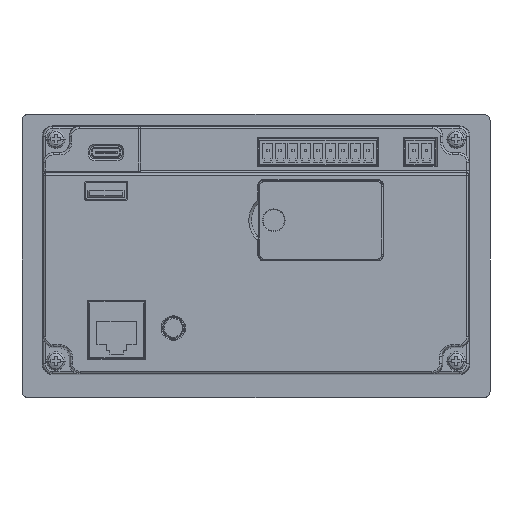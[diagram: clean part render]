
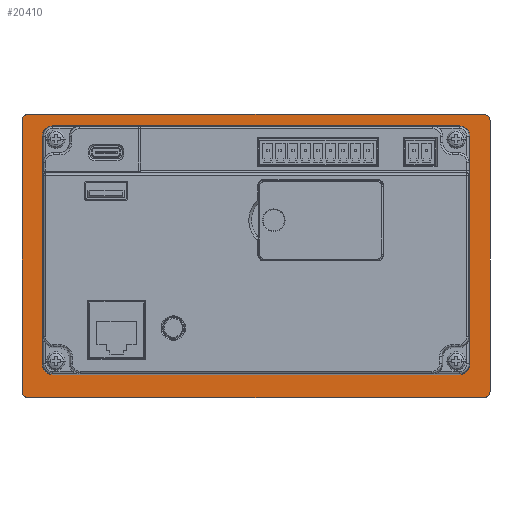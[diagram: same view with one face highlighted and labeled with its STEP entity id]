
A CAD part, top view. The second image highlights one B-rep face of the part: STEP entity #20410.
In plain terms, the highlighted planar face has unit normal (0, 0, 1).
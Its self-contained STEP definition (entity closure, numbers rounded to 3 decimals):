
#5608=CARTESIAN_POINT('',(61.815,39.465,5.));
#5609=CARTESIAN_POINT('',(62.315,39.465,5.));
#5610=CARTESIAN_POINT('',(63.098,39.248,5.));
#5611=CARTESIAN_POINT('',(63.981,38.631,5.));
#5612=CARTESIAN_POINT('',(64.598,37.748,5.));
#5613=CARTESIAN_POINT('',(64.815,36.965,5.));
#5614=CARTESIAN_POINT('',(64.815,36.465,5.));
#5624=CARTESIAN_POINT('',(-69.,-41.,5.));
#5625=DIRECTION('',(0.,0.,-1.));
#5626=DIRECTION('',(0.,-1.,0.));
#5627=AXIS2_PLACEMENT_3D('',#5624,#5625,#5626);
#5629=DIRECTION('',(0.,1.,0.));
#5630=VECTOR('',#5629,82.);
#5631=CARTESIAN_POINT('',(-71.,-41.,5.));
#5632=LINE('',#5631,#5630);
#5633=CARTESIAN_POINT('',(-69.,41.,5.));
#5634=DIRECTION('',(0.,0.,-1.));
#5635=DIRECTION('',(-1.,0.,0.));
#5636=AXIS2_PLACEMENT_3D('',#5633,#5634,#5635);
#5638=DIRECTION('',(1.,0.,0.));
#5639=VECTOR('',#5638,138.);
#5640=CARTESIAN_POINT('',(-69.,43.,5.));
#5641=LINE('',#5640,#5639);
#5642=CARTESIAN_POINT('',(69.,41.,5.));
#5643=DIRECTION('',(0.,0.,-1.));
#5644=DIRECTION('',(0.,1.,0.));
#5645=AXIS2_PLACEMENT_3D('',#5642,#5643,#5644);
#5647=DIRECTION('',(0.,-1.,0.));
#5648=VECTOR('',#5647,82.);
#5649=CARTESIAN_POINT('',(71.,41.,5.));
#5650=LINE('',#5649,#5648);
#5651=CARTESIAN_POINT('',(69.,-41.,5.));
#5652=DIRECTION('',(0.,0.,-1.));
#5653=DIRECTION('',(1.,0.,0.));
#5654=AXIS2_PLACEMENT_3D('',#5651,#5652,#5653);
#5656=DIRECTION('',(-1.,0.,0.));
#5657=VECTOR('',#5656,138.);
#5658=CARTESIAN_POINT('',(69.,-43.,5.));
#5659=LINE('',#5658,#5657);
#6132=DIRECTION('',(-1.,0.,0.));
#6133=VECTOR('',#6132,123.631);
#6134=CARTESIAN_POINT('',(61.815,39.465,5.));
#6135=LINE('',#6134,#6133);
#6144=CARTESIAN_POINT('',(-64.815,36.465,5.));
#6145=CARTESIAN_POINT('',(-64.815,36.965,5.));
#6146=CARTESIAN_POINT('',(-64.598,37.748,5.));
#6147=CARTESIAN_POINT('',(-63.981,38.631,5.));
#6148=CARTESIAN_POINT('',(-63.098,39.248,5.));
#6149=CARTESIAN_POINT('',(-62.315,39.465,5.));
#6150=CARTESIAN_POINT('',(-61.815,39.465,5.));
#6256=DIRECTION('',(0.,-1.,0.));
#6257=VECTOR('',#6256,69.431);
#6258=CARTESIAN_POINT('',(-64.815,36.465,5.));
#6259=LINE('',#6258,#6257);
#6840=DIRECTION('',(0.,1.,0.));
#6841=VECTOR('',#6840,69.431);
#6842=CARTESIAN_POINT('',(64.815,-32.965,5.));
#6843=LINE('',#6842,#6841);
#7156=CARTESIAN_POINT('',(64.815,-32.965,5.));
#7157=CARTESIAN_POINT('',(64.815,-33.465,5.));
#7158=CARTESIAN_POINT('',(64.598,-34.248,5.));
#7159=CARTESIAN_POINT('',(63.981,-35.131,5.));
#7160=CARTESIAN_POINT('',(63.098,-35.748,5.));
#7161=CARTESIAN_POINT('',(62.315,-35.965,5.));
#7162=CARTESIAN_POINT('',(61.815,-35.965,5.));
#7172=DIRECTION('',(1.,0.,0.));
#7173=VECTOR('',#7172,123.631);
#7174=CARTESIAN_POINT('',(-61.815,-35.965,5.));
#7175=LINE('',#7174,#7173);
#7184=CARTESIAN_POINT('',(-61.815,-35.965,5.));
#7185=CARTESIAN_POINT('',(-62.315,-35.965,5.));
#7186=CARTESIAN_POINT('',(-63.098,-35.748,5.));
#7187=CARTESIAN_POINT('',(-63.981,-35.131,5.));
#7188=CARTESIAN_POINT('',(-64.598,-34.248,5.));
#7189=CARTESIAN_POINT('',(-64.815,-33.465,5.));
#7190=CARTESIAN_POINT('',(-64.815,-32.965,5.));
#10632=CARTESIAN_POINT('',(-69.,-43.,5.));
#10633=CARTESIAN_POINT('',(-71.,-41.,5.));
#10634=VERTEX_POINT('',#10632);
#10635=VERTEX_POINT('',#10633);
#10636=CARTESIAN_POINT('',(-71.,41.,5.));
#10637=VERTEX_POINT('',#10636);
#10638=CARTESIAN_POINT('',(-69.,43.,5.));
#10639=VERTEX_POINT('',#10638);
#10640=CARTESIAN_POINT('',(69.,43.,5.));
#10641=VERTEX_POINT('',#10640);
#10642=CARTESIAN_POINT('',(71.,41.,5.));
#10643=VERTEX_POINT('',#10642);
#10644=CARTESIAN_POINT('',(71.,-41.,5.));
#10645=VERTEX_POINT('',#10644);
#10646=CARTESIAN_POINT('',(69.,-43.,5.));
#10647=VERTEX_POINT('',#10646);
#10648=VERTEX_POINT('',#5608);
#10649=VERTEX_POINT('',#5614);
#10650=CARTESIAN_POINT('',(64.815,-32.965,5.));
#10651=VERTEX_POINT('',#10650);
#10652=CARTESIAN_POINT('',(-64.815,36.465,5.));
#10653=CARTESIAN_POINT('',(-64.815,-32.965,5.));
#10654=VERTEX_POINT('',#10652);
#10655=VERTEX_POINT('',#10653);
#10656=VERTEX_POINT('',#6150);
#10657=VERTEX_POINT('',#7184);
#10658=CARTESIAN_POINT('',(61.815,-35.965,5.));
#10659=VERTEX_POINT('',#10658);
#20370=CARTESIAN_POINT('',(0.,0.,5.));
#20371=DIRECTION('',(0.,0.,1.));
#20372=DIRECTION('',(-1.,0.,0.));
#20373=AXIS2_PLACEMENT_3D('',#20370,#20371,#20372);
#20374=PLANE('',#20373);
#20376=ORIENTED_EDGE('',*,*,#20375,.T.);
#20378=ORIENTED_EDGE('',*,*,#20377,.T.);
#20380=ORIENTED_EDGE('',*,*,#20379,.T.);
#20382=ORIENTED_EDGE('',*,*,#20381,.T.);
#20384=ORIENTED_EDGE('',*,*,#20383,.T.);
#20386=ORIENTED_EDGE('',*,*,#20385,.T.);
#20388=ORIENTED_EDGE('',*,*,#20387,.T.);
#20390=ORIENTED_EDGE('',*,*,#20389,.T.);
#20391=EDGE_LOOP('',(#20376,#20378,#20380,#20382,#20384,#20386,#20388,#20390));
#20392=FACE_OUTER_BOUND('',#20391,.F.);
#20393=ORIENTED_EDGE('',*,*,#20360,.F.);
#20395=ORIENTED_EDGE('',*,*,#20394,.T.);
#20397=ORIENTED_EDGE('',*,*,#20396,.F.);
#20399=ORIENTED_EDGE('',*,*,#20398,.T.);
#20401=ORIENTED_EDGE('',*,*,#20400,.F.);
#20403=ORIENTED_EDGE('',*,*,#20402,.T.);
#20405=ORIENTED_EDGE('',*,*,#20404,.F.);
#20407=ORIENTED_EDGE('',*,*,#20406,.T.);
#20408=EDGE_LOOP('',(#20393,#20395,#20397,#20399,#20401,#20403,#20405,#20407));
#20409=FACE_BOUND('',#20408,.F.);
#20410=ADVANCED_FACE('',(#20392,#20409),#20374,.T.);
#5615=B_SPLINE_CURVE_WITH_KNOTS('',3,(#5608,#5609,#5610,#5611,#5612,#5613,
#5614),.UNSPECIFIED.,.F.,.F.,(4,1,1,1,4),(0.,0.25,0.5,0.75,1.),
.UNSPECIFIED.);
#5628=CIRCLE('',#5627,2.);
#5637=CIRCLE('',#5636,2.);
#5646=CIRCLE('',#5645,2.);
#5655=CIRCLE('',#5654,2.);
#6151=B_SPLINE_CURVE_WITH_KNOTS('',3,(#6144,#6145,#6146,#6147,#6148,#6149,
#6150),.UNSPECIFIED.,.F.,.F.,(4,1,1,1,4),(0.,0.25,0.5,0.75,1.),
.UNSPECIFIED.);
#7163=B_SPLINE_CURVE_WITH_KNOTS('',3,(#7156,#7157,#7158,#7159,#7160,#7161,
#7162),.UNSPECIFIED.,.F.,.F.,(4,1,1,1,4),(0.,0.25,0.5,0.75,1.),
.UNSPECIFIED.);
#7191=B_SPLINE_CURVE_WITH_KNOTS('',3,(#7184,#7185,#7186,#7187,#7188,#7189,
#7190),.UNSPECIFIED.,.F.,.F.,(4,1,1,1,4),(0.,0.25,0.5,0.75,1.),
.UNSPECIFIED.);
#20360=EDGE_CURVE('',#10648,#10649,#5615,.T.);
#20375=EDGE_CURVE('',#10634,#10635,#5628,.T.);
#20377=EDGE_CURVE('',#10635,#10637,#5632,.T.);
#20379=EDGE_CURVE('',#10637,#10639,#5637,.T.);
#20381=EDGE_CURVE('',#10639,#10641,#5641,.T.);
#20383=EDGE_CURVE('',#10641,#10643,#5646,.T.);
#20385=EDGE_CURVE('',#10643,#10645,#5650,.T.);
#20387=EDGE_CURVE('',#10645,#10647,#5655,.T.);
#20389=EDGE_CURVE('',#10647,#10634,#5659,.T.);
#20394=EDGE_CURVE('',#10648,#10656,#6135,.T.);
#20396=EDGE_CURVE('',#10654,#10656,#6151,.T.);
#20398=EDGE_CURVE('',#10654,#10655,#6259,.T.);
#20400=EDGE_CURVE('',#10657,#10655,#7191,.T.);
#20402=EDGE_CURVE('',#10657,#10659,#7175,.T.);
#20404=EDGE_CURVE('',#10651,#10659,#7163,.T.);
#20406=EDGE_CURVE('',#10651,#10649,#6843,.T.);
